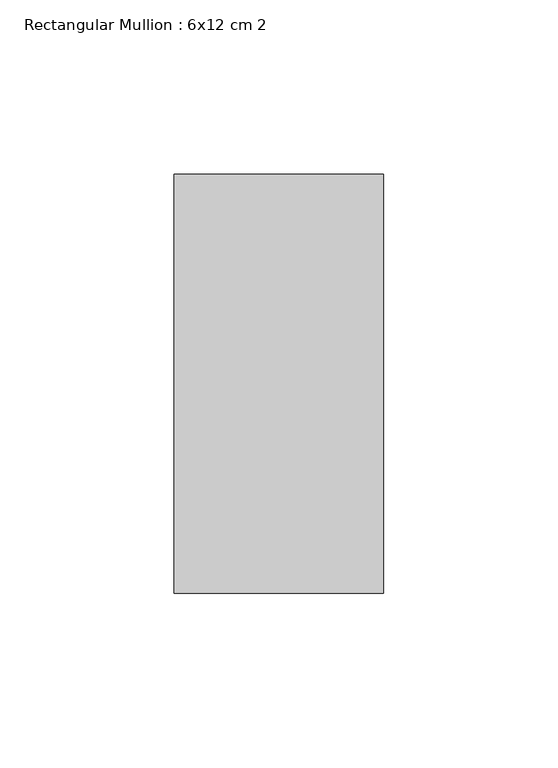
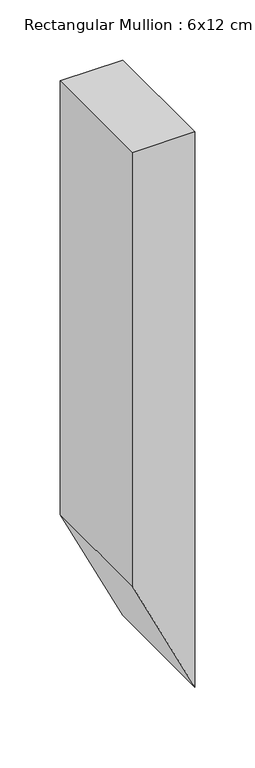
"""IFC4 building model written with IfcOpenShell, lengths in millimetres: member geometry, Rectangular Mullion : 6x12 cm 2."""

from ifc_helpers import new_model, si_unit, frame, origin, place, context, project, spatial, polyline, outline, extrude, source, transform, mapped, element, save


def rectangular_mullion_6x12_cm_2_d61e1959(model_context):
    return source(origin(), model_context, "Body", "SweptSolid", [
        extrude(outline(polyline([(0.0, 0.0), (0.0, -60.0), (-440.1337028, -60.0), (-563.5372602, 0.0), (0.0, 0.0)])), frame((0.0, 85.0, 0.0), z_axis=(0.0, 1.0, 0.0), x_axis=(0.0, 0.0, 1.0)), (0.0, 0.0, 1.0), 120.0),
    ])


if __name__ == "__main__":
    model = new_model("IFC4")
    model_context = context("Model", 3, world=origin())
    ifc_project = project(units=[si_unit("LENGTHUNIT", "METRE", prefix="MILLI")], contexts=[model_context])
    site = spatial("IfcSite", under=ifc_project)
    building = spatial("IfcBuilding", under=site)
    placement = place(None, origin())
    rectangular_mullion_6x12_cm_2_shape = rectangular_mullion_6x12_cm_2_d61e1959(model_context)
    element("IfcMember", 1, ObjectType="Rectangular Mullion : 6x12 cm 2", at=placement, inside=building, context=model_context, shape_type="MappedRepresentation", body=[
        mapped(rectangular_mullion_6x12_cm_2_shape, transform((0.0, 0.0, 0.0), x_axis=(1.0, 0.0, 0.0), y_axis=(0.0, 1.0, 0.0), z_axis=(0.0, 0.0, 1.0))),
    ])
    save(model, "model.ifc")
